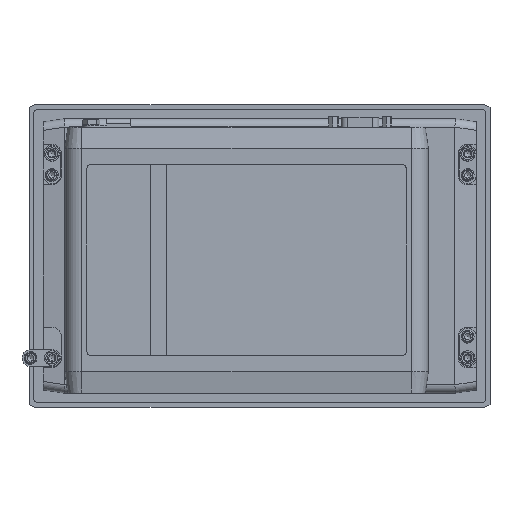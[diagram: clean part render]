
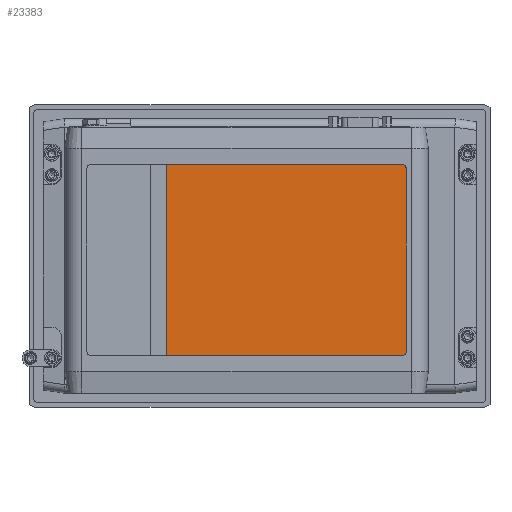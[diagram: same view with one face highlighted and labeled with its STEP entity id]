
A CAD part, top view. The second image highlights one B-rep face of the part: STEP entity #23383.
In plain terms, the highlighted planar face has unit normal (0, 0, 1).
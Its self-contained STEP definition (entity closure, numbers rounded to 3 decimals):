
#1296=FACE_OUTER_BOUND('',#2651,.T.);
#2651=EDGE_LOOP('',(#15052,#15053,#15054,#15055,#15056,#15057));
#4228=CIRCLE('',#24775,2.);
#4229=CIRCLE('',#24776,2.);
#4866=LINE('',#33310,#7138);
#4874=LINE('',#33326,#7146);
#4875=LINE('',#33330,#7147);
#4876=LINE('',#33333,#7148);
#7138=VECTOR('',#26975,90.);
#7146=VECTOR('',#26989,110.5);
#7147=VECTOR('',#26992,86.);
#7148=VECTOR('',#26995,110.5);
#9453=VERTEX_POINT('',#33307);
#9454=VERTEX_POINT('',#33309);
#9459=VERTEX_POINT('',#33325);
#9460=VERTEX_POINT('',#33327);
#9461=VERTEX_POINT('',#33329);
#9462=VERTEX_POINT('',#33331);
#11669=EDGE_CURVE('',#9454,#9453,#4866,.T.);
#11677=EDGE_CURVE('',#9459,#9453,#4874,.T.);
#11678=EDGE_CURVE('',#9460,#9459,#4228,.T.);
#11679=EDGE_CURVE('',#9461,#9460,#4875,.T.);
#11680=EDGE_CURVE('',#9462,#9461,#4229,.T.);
#11681=EDGE_CURVE('',#9454,#9462,#4876,.T.);
#15052=ORIENTED_EDGE('',*,*,#11669,.T.);
#15053=ORIENTED_EDGE('',*,*,#11677,.F.);
#15054=ORIENTED_EDGE('',*,*,#11678,.F.);
#15055=ORIENTED_EDGE('',*,*,#11679,.F.);
#15056=ORIENTED_EDGE('',*,*,#11680,.F.);
#15057=ORIENTED_EDGE('',*,*,#11681,.F.);
#21448=PLANE('',#24774);
#23383=ADVANCED_FACE('',(#1296),#21448,.T.);
#24774=AXIS2_PLACEMENT_3D('',#33324,#26987,#26988);
#24775=AXIS2_PLACEMENT_3D('',#33328,#26990,#26991);
#24776=AXIS2_PLACEMENT_3D('',#33332,#26993,#26994);
#26975=DIRECTION('',(0.,-1.,0.));
#26987=DIRECTION('center_axis',(0.,0.,
1.));
#26988=DIRECTION('ref_axis',(-1.,0.,0.));
#26989=DIRECTION('',(-1.,0.,0.));
#26990=DIRECTION('center_axis',(0.,0.,
-1.));
#26991=DIRECTION('ref_axis',(0.707,-0.707,0.));
#26992=DIRECTION('',(0.,-1.,0.));
#26993=DIRECTION('center_axis',(0.,0.,
-1.));
#26994=DIRECTION('ref_axis',(0.707,0.707,0.));
#26995=DIRECTION('',(1.,0.,0.));
#33307=CARTESIAN_POINT('',(-34.2,-47.,179.602));
#33309=CARTESIAN_POINT('',(-34.2,43.,179.602));
#33310=CARTESIAN_POINT('',(-34.2,43.,179.602));
#33324=CARTESIAN_POINT('Origin',(3.3,-2.,179.602));
#33325=CARTESIAN_POINT('',(76.3,-47.,179.602));
#33326=CARTESIAN_POINT('',(76.3,-47.,179.602));
#33327=CARTESIAN_POINT('',(78.3,-45.,179.602));
#33328=CARTESIAN_POINT('Origin',(76.3,-45.,179.602));
#33329=CARTESIAN_POINT('',(78.3,41.,179.602));
#33330=CARTESIAN_POINT('',(78.3,41.,179.602));
#33331=CARTESIAN_POINT('',(76.3,43.,179.602));
#33332=CARTESIAN_POINT('Origin',(76.3,41.,179.602));
#33333=CARTESIAN_POINT('',(-34.2,43.,179.602));
